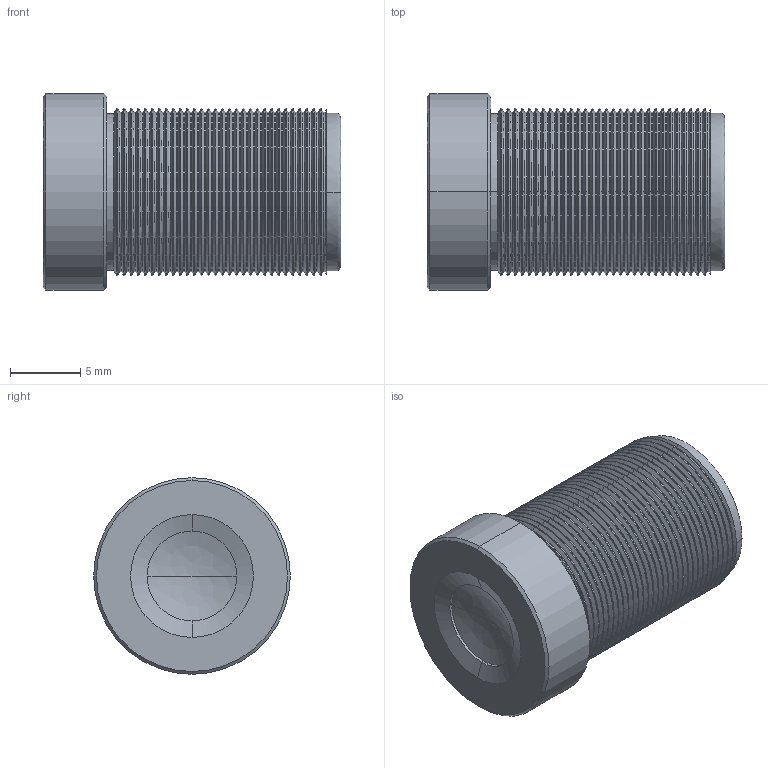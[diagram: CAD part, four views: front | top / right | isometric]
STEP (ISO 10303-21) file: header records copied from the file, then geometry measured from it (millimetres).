
FILE_DESCRIPTION (( 'STEP AP214' ), '1' );
FILE_NAME ('AB0818MG.STEP', '2025-02-10T00:59:45', ( '' ), ( '' ), 'SwSTEP 2.0', 'SolidWorks 2012', '' );
FILE_SCHEMA (( 'AUTOMOTIVE_DESIGN' ));
Length unit declared in the file: millimetre
Products named in the file (1): AB0818MG
Bounding box: 21.2 x 14 x 14 mm (x, y, z)
Volume: 2405.8 mm3; surface area: 1483.5 mm2
Topology: 1 solids, 1 shells, 263 faces, 526 edges, 267 vertices
Faces by surface type: cone 128, cylinder 126, plane 5, bspline 4
Entity records: 6728 total; most frequent: DIRECTION 1306, CARTESIAN_POINT 1187, ORIENTED_EDGE 1048, AXIS2_PLACEMENT_3D 526, EDGE_CURVE 524, EDGE_LOOP 267, VERTEX_POINT 267, CIRCLE 266
